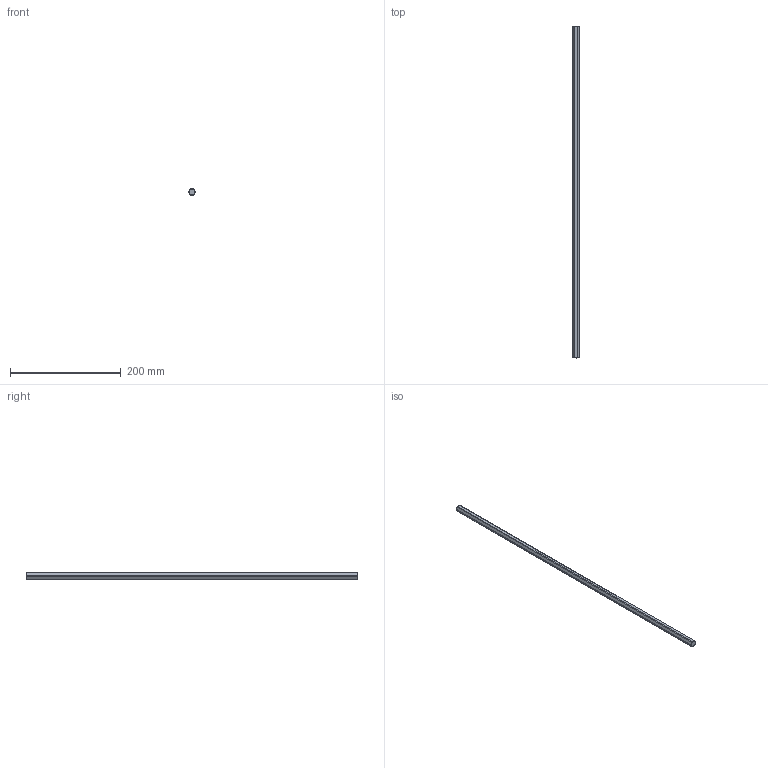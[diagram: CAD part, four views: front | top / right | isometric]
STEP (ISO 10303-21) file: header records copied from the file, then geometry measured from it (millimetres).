
FILE_DESCRIPTION (( 'STEP AP203' ), '1' );
FILE_NAME ('2102-0012-0600.STEP', '2018-02-14T22:29:32', ( '' ), ( '' ), 'SwSTEP 2.0', 'SolidWorks 2016', '' );
FILE_SCHEMA (( 'CONFIG_CONTROL_DESIGN' ));
Length unit declared in the file: millimetre
Products named in the file (1): 2102-0012-0600
Bounding box: 11.99 x 600 x 11 mm (x, y, z)
Volume: 62050.4 mm3; surface area: 22319.2 mm2
Topology: 1 solids, 1 shells, 26 faces, 60 edges, 36 vertices
Faces by surface type: cone 12, plane 8, cylinder 6
Entity records: 897 total; most frequent: CARTESIAN_POINT 259, ORIENTED_EDGE 120, DIRECTION 114, EDGE_CURVE 60, AXIS2_PLACEMENT_3D 51, VERTEX_POINT 36, FACE_OUTER_BOUND 26, ADVANCED_FACE 26
